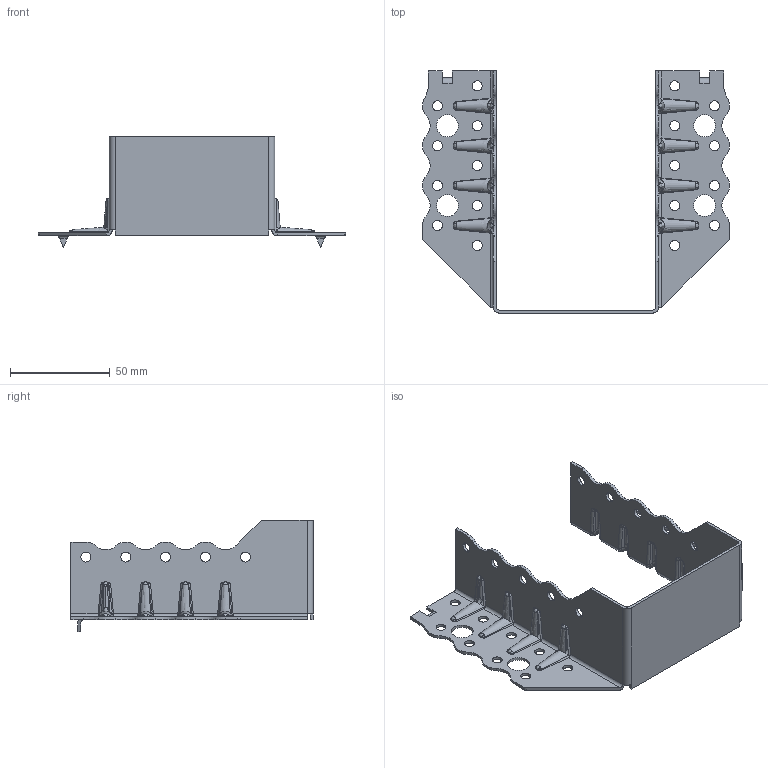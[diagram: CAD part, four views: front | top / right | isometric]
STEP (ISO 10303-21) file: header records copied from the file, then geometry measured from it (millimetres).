
FILE_DESCRIPTION (( 'STEP AP203' ), '1' );
FILE_NAME ('30505TOPK.STEP', '2020-04-07T08:42:39', ( '' ), ( '' ), 'SwSTEP 2.0', 'SolidWorks 2013', '' );
FILE_SCHEMA (( 'CONFIG_CONTROL_DESIGN' ));
Length unit declared in the file: millimetre
Products named in the file (1): 30505TOPK
Bounding box: 154 x 121.5 x 56 mm (x, y, z)
Volume: 29798 mm3; surface area: 41997 mm2
Topology: 1 solids, 1 shells, 604 faces, 1544 edges, 928 vertices
Faces by surface type: cylinder 232, bspline 232, plane 116, cone 24
Entity records: 37819 total; most frequent: CARTESIAN_POINT 25091, ORIENTED_EDGE 3060, DIRECTION 1888, EDGE_CURVE 1530, VERTEX_POINT 928, EDGE_LOOP 668, AXIS2_PLACEMENT_3D 665, B_SPLINE_CURVE_WITH_KNOTS 640
